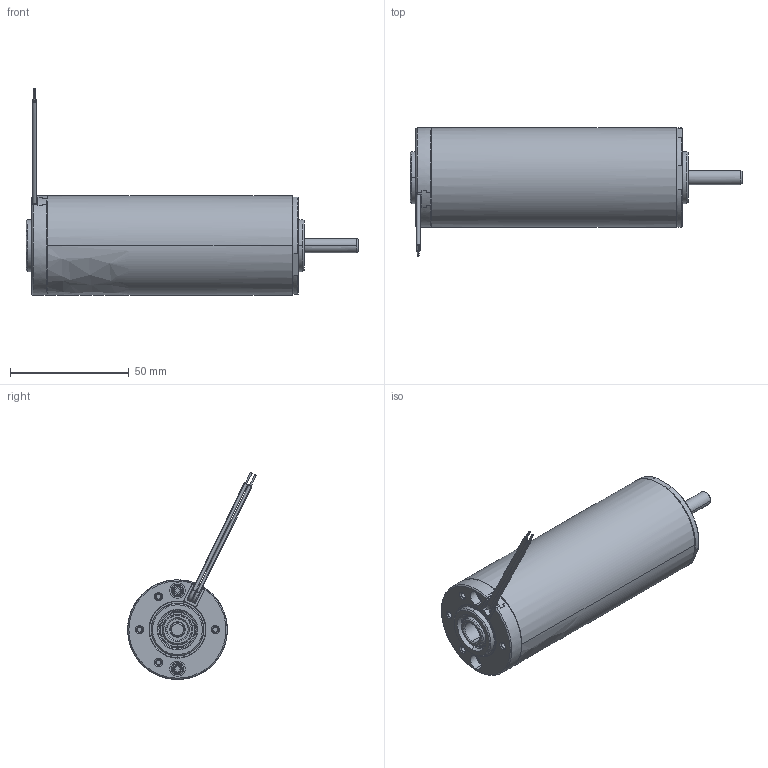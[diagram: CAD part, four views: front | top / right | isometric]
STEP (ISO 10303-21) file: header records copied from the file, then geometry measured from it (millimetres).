
FILE_DESCRIPTION((''),'2;1');
FILE_NAME('BGO1_82850002_SW0002','2014-04-29T',('ALEBGO1'),('CROUZET-AUTOMATISMES'),'PRO/ENGINEER BY PARAMETRIC TECHNOLOGY CORPORATION, 2010280','PRO/ENGINEER BY PARAMETRIC TECHNOLOGY CORPORATION, 2010280','');
FILE_SCHEMA(('CONFIG_CONTROL_DESIGN'));
Products named in the file (1): BGO1_82850002_SW0002
Bounding box: 140 x 54.26 x 87.23 mm (x, y, z)
Surface area: 60365.6 mm2 (no closed solid volume)
Topology: 0 solids, 0 shells, 1547 faces, 7765 edges, 7732 vertices
Faces by surface type: bspline 1364, torus 130, sphere 53
Entity records: 178275 total; most frequent: CARTESIAN_POINT 110487, DIRECTION 10570, TRIMMED_CURVE 8637, DEFINITIONAL_REPRESENTATION 7699, PCURVE 7699, COMPOSITE_CURVE_SEGMENT 7699, VECTOR 7070, LINE 7070
